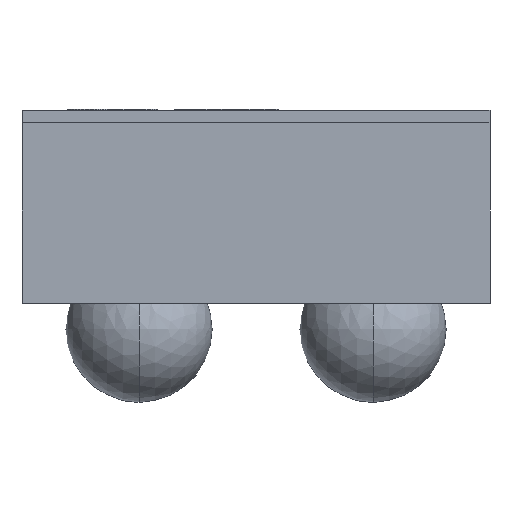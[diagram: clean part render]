
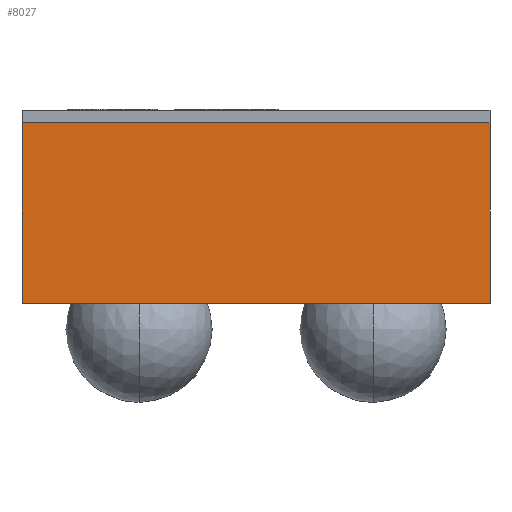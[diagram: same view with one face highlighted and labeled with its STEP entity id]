
A CAD part, front view. The second image highlights one B-rep face of the part: STEP entity #8027.
In plain terms, the highlighted planar face has unit normal (0, -1, 0).
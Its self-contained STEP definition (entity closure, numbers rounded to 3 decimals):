
#139 = DIRECTION ( 'NONE',  ( 0., 0., 1. ) ) ;
#241 = VECTOR ( 'NONE', #9540, 1000. ) ;
#953 = DIRECTION ( 'NONE',  ( 1., 0., 0. ) ) ;
#1064 = CARTESIAN_POINT ( 'NONE',  ( -0.4, -0.65, -2.164 ) ) ;
#1082 = PLANE ( 'NONE',  #10730 ) ;
#1736 = LINE ( 'NONE', #5650, #12081 ) ;
#2194 = CARTESIAN_POINT ( 'NONE',  ( 0.4, -0.65, -2.164 ) ) ;
#2223 = VERTEX_POINT ( 'NONE', #4275 ) ;
#2247 = VERTEX_POINT ( 'NONE', #11697 ) ;
#3130 = CARTESIAN_POINT ( 'NONE',  ( 0.4, -0.65, 0. ) ) ;
#3473 = ORIENTED_EDGE ( 'NONE', *, *, #10460, .T. ) ;
#3611 = EDGE_CURVE ( 'NONE', #3886, #2223, #4914, .T. ) ;
#3627 = CARTESIAN_POINT ( 'NONE',  ( 0.4, -0.65, 0. ) ) ;
#3886 = VERTEX_POINT ( 'NONE', #11490 ) ;
#3952 = ORIENTED_EDGE ( 'NONE', *, *, #8682, .T. ) ;
#4266 = VECTOR ( 'NONE', #139, 1000. ) ;
#4275 = CARTESIAN_POINT ( 'NONE',  ( -0.4, -0.65, 0. ) ) ;
#4688 = DIRECTION ( 'NONE',  ( -1., 0., 0. ) ) ;
#4805 = EDGE_LOOP ( 'NONE', ( #11328, #10202, #3952, #3473 ) ) ;
#4914 = LINE ( 'NONE', #1064, #4266 ) ;
#5103 = VERTEX_POINT ( 'NONE', #3130 ) ;
#5600 = CARTESIAN_POINT ( 'NONE',  ( 0.4, -0.65, -2.164 ) ) ;
#5650 = CARTESIAN_POINT ( 'NONE',  ( 0.4, -0.65, -0.308 ) ) ;
#5845 = FACE_OUTER_BOUND ( 'NONE', #4805, .T. ) ;
#6569 = DIRECTION ( 'NONE',  ( 0., 0., 1. ) ) ;
#6730 = LINE ( 'NONE', #2194, #241 ) ;
#8027 = ADVANCED_FACE ( 'NONE', ( #5845 ), #1082, .F. ) ;
#8263 = LINE ( 'NONE', #3627, #8624 ) ;
#8624 = VECTOR ( 'NONE', #4688, 1000. ) ;
#8682 = EDGE_CURVE ( 'NONE', #2247, #5103, #6730, .T. ) ;
#9540 = DIRECTION ( 'NONE',  ( 0., 0., 1. ) ) ;
#10202 = ORIENTED_EDGE ( 'NONE', *, *, #11790, .T. ) ;
#10460 = EDGE_CURVE ( 'NONE', #5103, #2223, #8263, .T. ) ;
#10730 = AXIS2_PLACEMENT_3D ( 'NONE', #5600, #11234, #6569 ) ;
#11234 = DIRECTION ( 'NONE',  ( 0., 1., 0. ) ) ;
#11328 = ORIENTED_EDGE ( 'NONE', *, *, #3611, .F. ) ;
#11490 = CARTESIAN_POINT ( 'NONE',  ( -0.4, -0.65, -0.308 ) ) ;
#11697 = CARTESIAN_POINT ( 'NONE',  ( 0.4, -0.65, -0.308 ) ) ;
#11790 = EDGE_CURVE ( 'NONE', #3886, #2247, #1736, .T. ) ;
#12081 = VECTOR ( 'NONE', #953, 1000. ) ;
